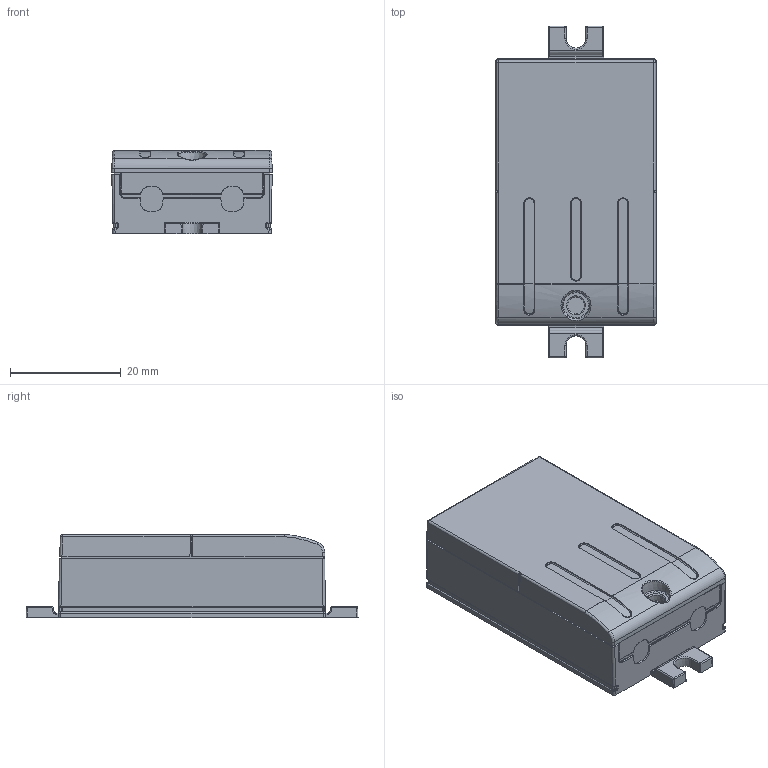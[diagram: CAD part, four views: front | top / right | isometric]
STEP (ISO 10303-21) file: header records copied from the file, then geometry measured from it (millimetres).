
FILE_DESCRIPTION (( 'STEP AP203' ), '1' );
FILE_NAME ('5652_AA NODE.STEP', '2021-02-03T20:17:48', ( '' ), ( '' ), 'SwSTEP 2.0', 'SolidWorks 2020', '' );
FILE_SCHEMA (( 'CONFIG_CONTROL_DESIGN' ));
Length unit declared in the file: millimetre
Products named in the file (1): 5652_AA NODE
Bounding box: 29 x 60 x 15 mm (x, y, z)
Volume: 20605.7 mm3; surface area: 5489.1 mm2
Topology: 1 solids, 1 shells, 407 faces, 976 edges, 573 vertices
Faces by surface type: cylinder 166, plane 108, bspline 96, sphere 24, cone 11, torus 2
Entity records: 13907 total; most frequent: CARTESIAN_POINT 5178, ORIENTED_EDGE 1944, DIRECTION 1624, EDGE_CURVE 972, AXIS2_PLACEMENT_3D 581, VERTEX_POINT 573, LINE 462, VECTOR 462
